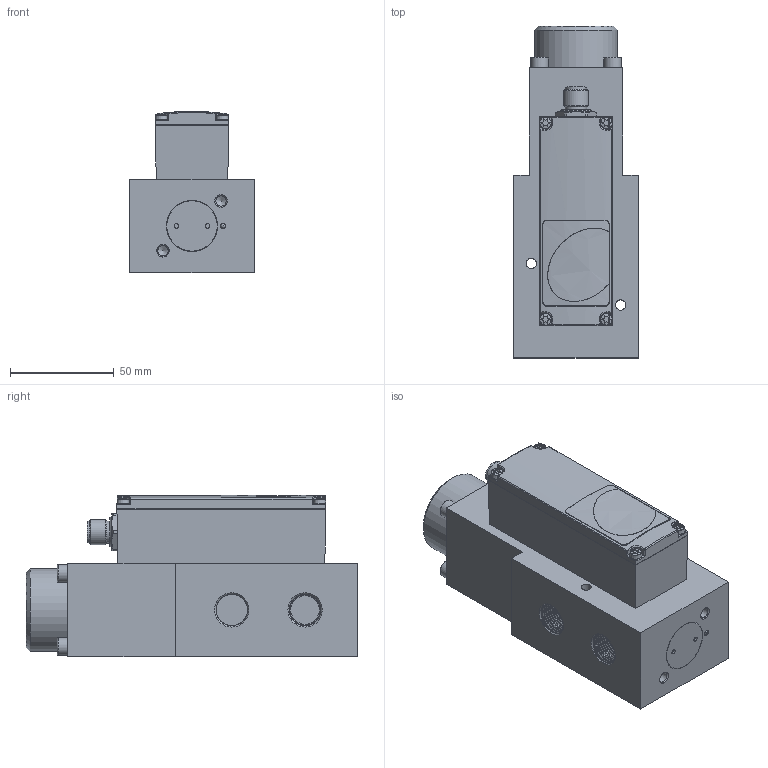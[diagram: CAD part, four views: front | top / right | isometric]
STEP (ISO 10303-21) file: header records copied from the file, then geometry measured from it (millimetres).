
FILE_DESCRIPTION(/* description */ (''),/* implementation_level */ '2;1');
FILE_NAME(/* name */ 'U:/AirCom-Produktdokumentation/Proportionaldruckregler/PF/Zeichnungen/CAD-Aircom/3D/B-PF000.step',/* time_stamp */ '2016-10-07T07:14:03+02:00',/* author */ (''),/* organization */ (''),/* preprocessor_version */ 'ST-DEVELOPER v16.5',/* originating_system */ 'Autodesk Translation Framework v5.2.0.2031',/* authorisation */ '');
FILE_SCHEMA (('AUTOMOTIVE_DESIGN { 1 0 10303 214 3 1 1 }'));
Length unit declared in the file: centimetre
Products named in the file (1): 615370E7XXXXXXX
Bounding box: 60 x 160 x 77.74 mm (x, y, z)
Volume: 472271.2 mm3; surface area: 54061.6 mm2
Topology: 2 solids, 5 shells, 429 faces, 1050 edges, 667 vertices
Faces by surface type: plane 234, cylinder 102, cone 36, bspline 35, sphere 16, torus 6
Full cylindrical faces by diameter (mm): 1 x5, 1.4 x1, 1.5 x2, 2.2 x6, 3.3 x1, 5 x4, 6.2 x1, 8.4 x1, 8.5 x4, 8.9 x1, 9 x1, 10.4 x1, 10.5 x1, 12 x1, 13 x1, 14.78 x1, 15 x1, 15.01 x1, 22 x1, 22.3 x1, 24.5 x1, 24.7 x1, 40 x1
Entity records: 29419 total; most frequent: CARTESIAN_POINT 19844, DIRECTION 1969, ORIENTED_EDGE 1874, EDGE_CURVE 937, AXIS2_PLACEMENT_3D 740, VERTEX_POINT 630, EDGE_LOOP 549, LINE 489
